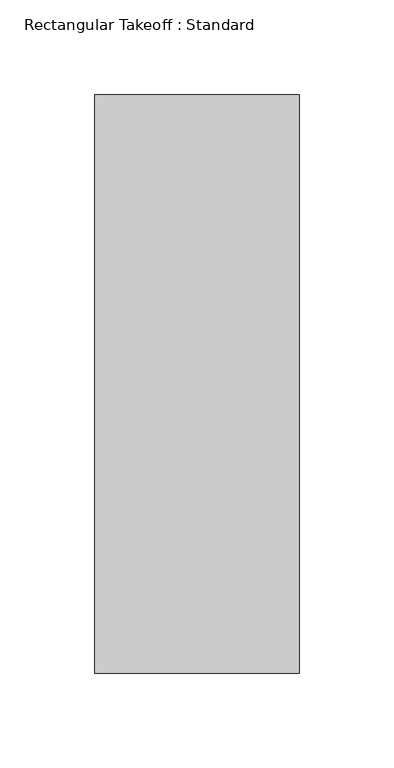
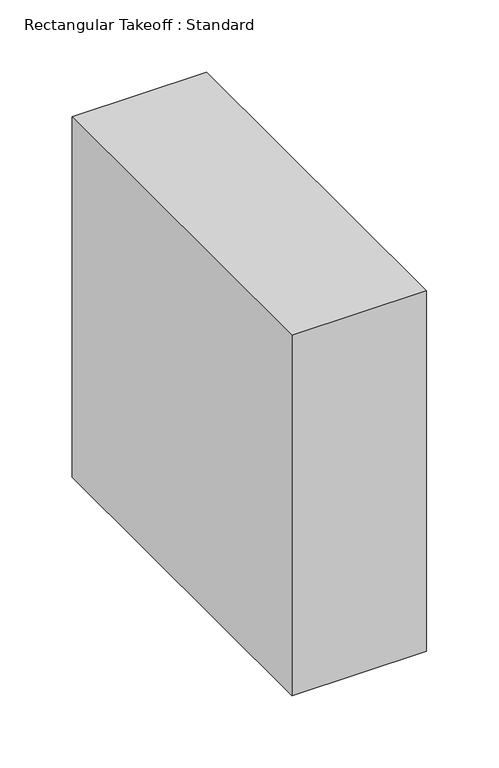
"""IFC4 building model written with IfcOpenShell, lengths in millimetres: duct fitting geometry, Rectangular Takeoff : Standard."""

import ifcopenshell
import ifcopenshell.guid

model = None  # the IFC model being written
_history = None  # IfcOwnerHistory: only IFC2X3 demands one
_inside = {}  # id of a spatial element -> (the spatial element, [elements in it])
_under = {}  # id of a project, library or spatial element -> (it, [spatial elements below it])
_declared = {}  # id of a project -> (the project, [libraries it declares])
_typed = {}  # id of a type object -> (the type object, [elements of that type])
_made_of = {}  # id of a material, layer set ... -> (it, [elements and type objects made of it])


def new_model(schema):
    """Start an empty IFC model of exactly this schema.

    Asked for "IFC4X3", IfcOpenShell would pick the latest addendum, in which some entities
    have other attributes; the version numbers below select the first issue.
    IFC2X3 requires an IfcOwnerHistory on every rooted entity: one is made here for all.
    """
    global model, _history
    if schema == "IFC4X3":
        model = ifcopenshell.file(schema_version=(4, 3, 0, 0))
    else:
        model = ifcopenshell.file(schema=schema)
    _inside.clear()
    _under.clear()
    _declared.clear()
    _typed.clear()
    _made_of.clear()
    _history = None
    if model.schema == "IFC2X3":
        org = make("IfcOrganization", Name="unknown")
        user = make(
            "IfcPersonAndOrganization",
            ThePerson=make("IfcPerson", FamilyName="unknown"),
            TheOrganization=org,
        )
        app = make(
            "IfcApplication",
            ApplicationDeveloper=org,
            Version="unknown",
            ApplicationFullName="unknown",
            ApplicationIdentifier="unknown",
        )
        _history = make(
            "IfcOwnerHistory",
            OwningUser=user,
            OwningApplication=app,
            ChangeAction="ADDED",
            CreationDate=0,
        )
    return model


def make(cls, **values):
    """One entity of the class cls with the attributes given. An attribute that is None is left unset."""
    return model.create_entity(
        cls, **{name: value for name, value in values.items() if value is not None}
    )


def rooted(cls, **values):
    """An entity with a GlobalId (a new one), such as an element, a storey or a relation."""
    return make(cls, GlobalId=ifcopenshell.guid.new(), OwnerHistory=_history, **values)


def si_unit(unit_type, name, prefix=None):
    """IfcSIUnit, for example si_unit("LENGTHUNIT", "METRE", prefix="MILLI")."""
    return make("IfcSIUnit", UnitType=unit_type, Prefix=prefix, Name=name)


def assignment(units):
    """IfcUnitAssignment: the units of a project."""
    return None if units is None else make("IfcUnitAssignment", Units=units)


def point(xyz):
    """IfcCartesianPoint."""
    return None if xyz is None else make("IfcCartesianPoint", Coordinates=xyz)


def direction(xyz):
    """IfcDirection."""
    return None if xyz is None else make("IfcDirection", DirectionRatios=xyz)


def frame(location, z_axis=None, x_axis=None):
    """IfcAxis2Placement3D, a coordinate frame: its origin and axes. An axis left out is left unset."""
    return make(
        "IfcAxis2Placement3D",
        Location=point(location),
        Axis=direction(z_axis),
        RefDirection=direction(x_axis),
    )


def origin():
    """The frame at (0, 0, 0) with its axes left unset."""
    return frame((0.0, 0.0, 0.0))


def place(relative_to, where):
    """IfcLocalPlacement: puts the frame where relative to a parent placement (None: the world)."""
    return make(
        "IfcLocalPlacement", PlacementRelTo=relative_to, RelativePlacement=where
    )


def context(
    kind, dimensions, precision=None, world=None, true_north=None, identifier=None
):
    """IfcGeometricRepresentationContext, for example the 3D "Model" context."""
    return make(
        "IfcGeometricRepresentationContext",
        ContextIdentifier=identifier,
        ContextType=kind,
        CoordinateSpaceDimension=dimensions,
        Precision=precision,
        WorldCoordinateSystem=world,
        TrueNorth=true_north,
    )


def project(units=None, contexts=None):
    """IfcProject with its units and contexts."""
    return rooted(
        "IfcProject",
        Name="project",
        RepresentationContexts=contexts,
        UnitsInContext=assignment(units),
    )


def spatial(cls, under=None, at=None, **own):
    """A site, building, storey or space (cls), placed at a placement, below another one or the project."""
    s = rooted(cls, ObjectPlacement=at, **own)
    if under is not None:
        _under.setdefault(under.id(), (under, []))[1].append(s)
    return s


def polyline(points):
    """IfcPolyline through the points."""
    return make("IfcPolyline", Points=[point(p) for p in points])


def outline(outer, holes=None, kind="AREA"):
    """IfcArbitraryClosedProfileDef: a profile drawn as a closed curve; with holes, ...WithVoids."""
    if holes is None:
        return make("IfcArbitraryClosedProfileDef", ProfileType=kind, OuterCurve=outer)
    return make(
        "IfcArbitraryProfileDefWithVoids",
        ProfileType=kind,
        OuterCurve=outer,
        InnerCurves=holes,
    )


def extrude(swept, where, along, depth):
    """IfcExtrudedAreaSolid: the profile swept, set in the frame where, extruded along a direction by depth."""
    return make(
        "IfcExtrudedAreaSolid",
        SweptArea=swept,
        Position=where,
        ExtrudedDirection=direction(along),
        Depth=depth,
    )


def shape(context_of_items, identifier, shape_type, items):
    """IfcShapeRepresentation: the items that make up one representation, for example the "Body"."""
    return make(
        "IfcShapeRepresentation",
        ContextOfItems=context_of_items,
        RepresentationIdentifier=identifier,
        RepresentationType=shape_type,
        Items=items,
    )


def source(mapping_origin, context_of_items, identifier, shape_type, items):
    """IfcRepresentationMap: a shape defined once, which mapped items show again and again."""
    return make(
        "IfcRepresentationMap",
        MappingOrigin=mapping_origin,
        MappedRepresentation=shape(context_of_items, identifier, shape_type, items),
    )


def transform(
    local_origin,
    x_axis=None,
    y_axis=None,
    z_axis=None,
    scale=None,
    scale2=None,
    scale3=None,
    uniform=True,
):
    """IfcCartesianTransformationOperator3D, or its non-uniform kind. x_axis, y_axis, z_axis: its Axis1, 2, 3."""
    if uniform:
        return make(
            "IfcCartesianTransformationOperator3D",
            Axis1=direction(x_axis),
            Axis2=direction(y_axis),
            LocalOrigin=point(local_origin),
            Scale=scale,
            Axis3=direction(z_axis),
        )
    return make(
        "IfcCartesianTransformationOperator3DnonUniform",
        Axis1=direction(x_axis),
        Axis2=direction(y_axis),
        LocalOrigin=point(local_origin),
        Scale=scale,
        Axis3=direction(z_axis),
        Scale2=scale2,
        Scale3=scale3,
    )


def mapped(mapping_source, mapping_target):
    """IfcMappedItem: shows the shape of a source again, moved by a transform."""
    return make(
        "IfcMappedItem", MappingSource=mapping_source, MappingTarget=mapping_target
    )


def made_of(thing, what):
    """Note that an element or type object is made of a material, layer set ...; save() writes the relation."""
    if what is not None:
        _made_of.setdefault(what.id(), (what, []))[1].append(thing)
    return thing


def element(
    cls,
    number,
    at=None,
    inside=None,
    cuts=None,
    type_object=None,
    material=None,
    context=None,
    identifier="Body",
    shape_type=None,
    held_by="IfcProductDefinitionShape",
    body=None,
    shapes=None,
    **own,
):
    """One element of the class cls, such as IfcWall. Its Tag is "e" and its number.

    at: its placement. inside: the storey or other place that contains it. cuts: it is an
    opening in that element (IfcRelVoidsElement). A single representation is given by context,
    identifier, shape_type and body (its items); several are given by shapes. held_by: the class
    of the entity that holds the representations. save() writes the other relations.
    """
    e = rooted(cls, Tag="e%d" % number, ObjectPlacement=at, **own)
    if body is not None:
        shapes = [shape(context, identifier, shape_type, body)]
    if shapes is not None:
        e.Representation = make(held_by, Representations=shapes)
    if inside is not None:
        _inside.setdefault(inside.id(), (inside, []))[1].append(e)
    if cuts is not None:
        rooted(
            "IfcRelVoidsElement", RelatingBuildingElement=cuts, RelatedOpeningElement=e
        )
    if type_object is not None:
        _typed.setdefault(type_object.id(), (type_object, []))[1].append(e)
    return made_of(e, material)


def aggregate(whole, parts):
    """IfcRelAggregates: a whole, such as a stair, and the parts it consists of."""
    return rooted("IfcRelAggregates", RelatingObject=whole, RelatedObjects=parts)


def save(model, path):
    """Write the relations noted so far, then the file.

    IfcRelAggregates (storeys below a building ...), IfcRelContainedInSpatialStructure (elements
    in a storey), IfcRelDefinesByType, IfcRelAssociatesMaterial and IfcRelDeclares: one each for
    every whole, place, type object, material and project.
    """
    for whole, parts in _under.values():
        aggregate(whole, parts)
    for where, things in _inside.values():
        rooted(
            "IfcRelContainedInSpatialStructure",
            RelatedElements=things,
            RelatingStructure=where,
        )
    for kind, things in _typed.values():
        rooted("IfcRelDefinesByType", RelatedObjects=things, RelatingType=kind)
    for what, things in _made_of.values():
        rooted("IfcRelAssociatesMaterial", RelatedObjects=things, RelatingMaterial=what)
    for by, libraries in _declared.values():
        rooted("IfcRelDeclares", RelatingContext=by, RelatedDefinitions=libraries)
    model.write(path)


def rectangular_takeoff_standard_087f681d(model_context):
    return source(origin(), model_context, "Body", "SweptSolid", [
        extrude(outline(polyline([(-6.096, 152.4), (101.6, 152.4), (101.6, -152.4), (-6.096, -152.4), (-6.096, 152.4)])), frame((0.0, 0.0, -152.4), z_axis=(0.0, 0.0, 1.0), x_axis=(1.0, 0.0, 0.0)), (0.0, 0.0, 1.0), 304.8),
    ])


if __name__ == "__main__":
    model = new_model("IFC4")
    model_context = context("Model", 3, world=origin())
    ifc_project = project(units=[si_unit("LENGTHUNIT", "METRE", prefix="MILLI")], contexts=[model_context])
    site = spatial("IfcSite", under=ifc_project)
    building = spatial("IfcBuilding", under=site)
    placement = place(None, origin())
    rectangular_takeoff_standard_shape = rectangular_takeoff_standard_087f681d(model_context)
    element("IfcDuctFitting", 1, ObjectType="Rectangular Takeoff : Standard", at=placement, inside=building, context=model_context, shape_type="MappedRepresentation", body=[
        mapped(rectangular_takeoff_standard_shape, transform((0.0, 0.0, 0.0), x_axis=(1.0, 0.0, 0.0), y_axis=(0.0, 1.0, 0.0), z_axis=(0.0, 0.0, 1.0))),
    ])
    save(model, "model.ifc")
